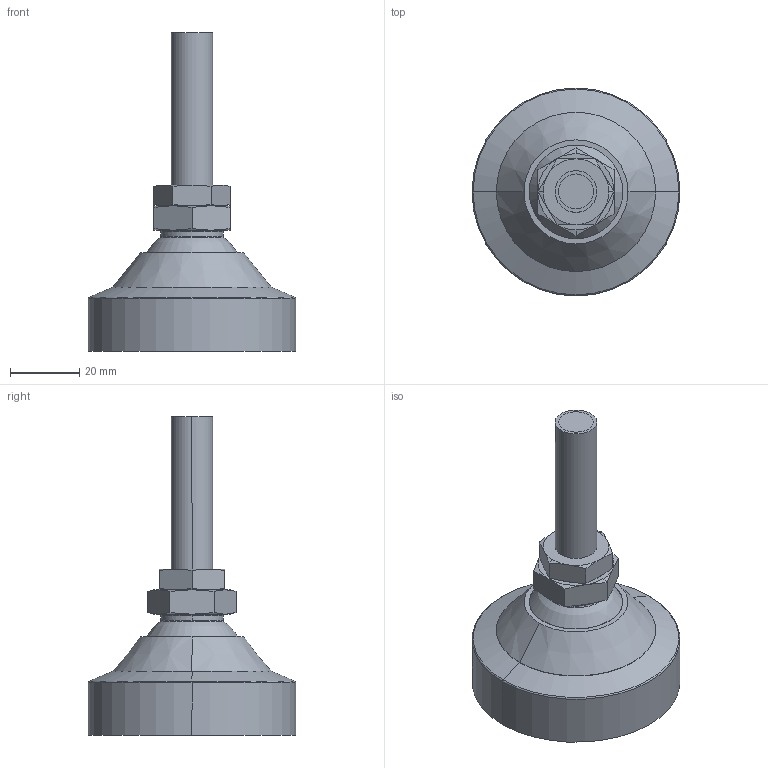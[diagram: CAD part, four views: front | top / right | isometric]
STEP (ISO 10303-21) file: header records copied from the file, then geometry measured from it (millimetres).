
FILE_DESCRIPTION((''),'1');
FILE_NAME('LALAH_M12_stainless.step','2020-05-13T09:23:30',(''),(''),'','','');
FILE_SCHEMA(('AUTOMOTIVE_DESIGN { 1 0 10303 214 1 1 1 1 }'));
Length unit declared in the file: metre
Products named in the file (4): LALAH M12_stainless; LALAH nut 01; LALAH part 02; LALAH base 01
Assembly tree (3 placements, depth 2):
  LALAH M12_stainless
    LALAH nut 01
    LALAH part 02
    LALAH base 01
Bounding box: 60 x 60 x 92 mm (x, y, z)
Volume: 73148.5 mm3; surface area: 23287 mm2
Topology: 3 solids, 4 shells, 92 faces, 193 edges, 112 vertices
Faces by surface type: cone 42, plane 23, cylinder 20, torus 4, bspline 2, revolution 1
Entity records: 4664 total; most frequent: CARTESIAN_POINT 2690, DIRECTION 409, ORIENTED_EDGE 382, EDGE_CURVE 193, AXIS2_PLACEMENT_3D 179, VERTEX_POINT 112, EDGE_LOOP 99, ADVANCED_FACE 89
